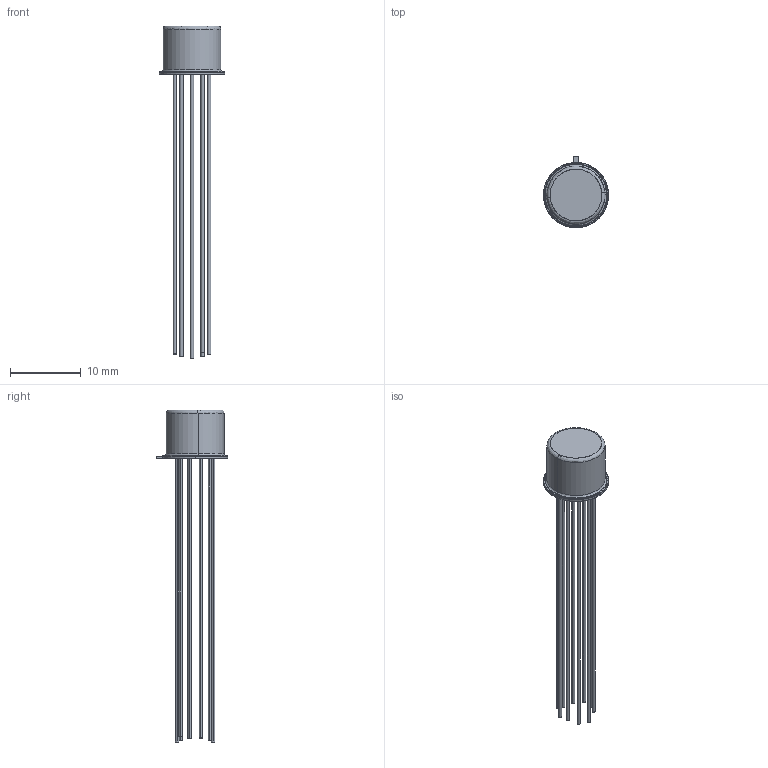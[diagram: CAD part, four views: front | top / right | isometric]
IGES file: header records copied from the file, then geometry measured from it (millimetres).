
Start section: SolidWorks IGES file using analytic representation for surfaces
Global section: file name: P:\REL\METHODES\VROUSSEAU\RELAIS\Vues 3D Manoly\TL\TL.IGS; native system: SolidWorks 2018; preprocessor: SolidWorks 2018; author: vrousseau; date: 200423.135745; units: millimetre
Bounding box: 9.2 x 10.08 x 46.85 mm (x, y, z)
Surface area: 1301.3 mm2 (no closed solid volume)
Topology: 0 solids, 0 shells, 171 faces, 2114 edges, 2114 vertices
Faces by surface type: revolution 101, bspline 70
